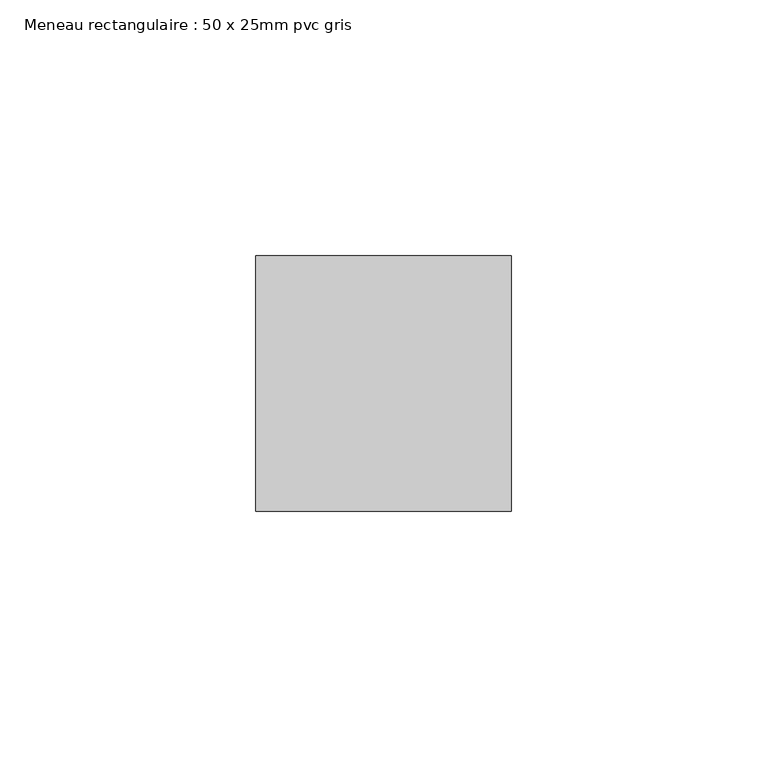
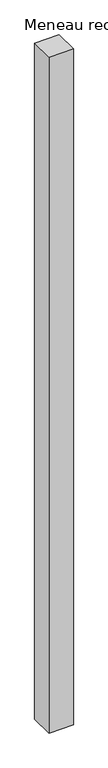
"""IFC4 building model written with IfcOpenShell, lengths in millimetres: member geometry, Meneau rectangulaire : 50 x 25mm pvc gris."""

from ifc_helpers import new_model, si_unit, frame, origin, place, context, project, spatial, polyline, outline, extrude, source, transform, mapped, element, save


def meneau_rectangulaire_50_x_25mm_pvc_gris_cd2358be(model_context):
    return source(origin(), model_context, "Body", "SweptSolid", [
        extrude(outline(polyline([(0.0, 0.0), (0.0, -50.0), (-50.0, -50.0), (-50.0, 0.0), (0.0, 0.0)])), frame((0.0, 0.0, -1460.0), z_axis=(0.0, 0.0, 1.0), x_axis=(1.0, 0.0, 0.0)), (0.0, 0.0, 1.0), 1460.0),
    ])


if __name__ == "__main__":
    model = new_model("IFC4")
    model_context = context("Model", 3, world=origin())
    ifc_project = project(units=[si_unit("LENGTHUNIT", "METRE", prefix="MILLI")], contexts=[model_context])
    site = spatial("IfcSite", under=ifc_project)
    building = spatial("IfcBuilding", under=site)
    placement = place(None, origin())
    meneau_rectangulaire_50_x_25mm_pvc_gris_shape = meneau_rectangulaire_50_x_25mm_pvc_gris_cd2358be(model_context)
    element("IfcMember", 1, ObjectType="Meneau rectangulaire : 50 x 25mm pvc gris", at=placement, inside=building, context=model_context, shape_type="MappedRepresentation", body=[
        mapped(meneau_rectangulaire_50_x_25mm_pvc_gris_shape, transform((0.0, 0.0, 0.0), x_axis=(1.0, 0.0, 0.0), y_axis=(0.0, 1.0, 0.0), z_axis=(0.0, 0.0, 1.0))),
    ])
    save(model, "model.ifc")
